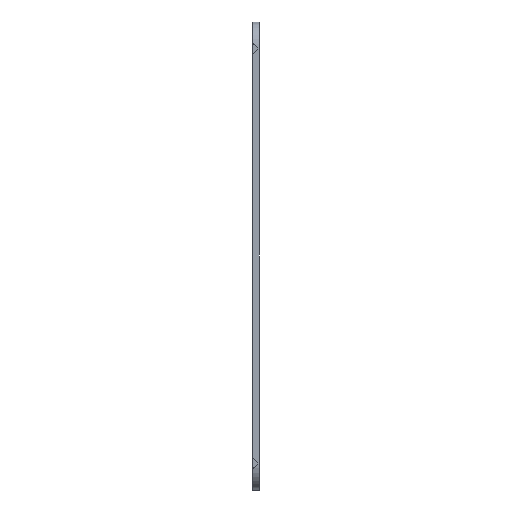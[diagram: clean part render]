
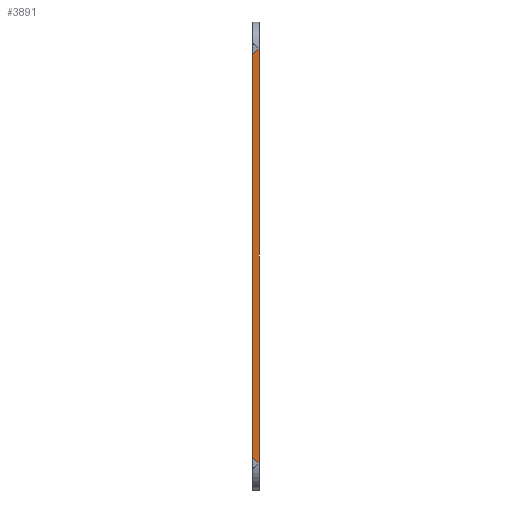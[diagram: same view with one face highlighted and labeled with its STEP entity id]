
A CAD part, left-side view. The second image highlights one B-rep face of the part: STEP entity #3891.
In plain terms, the highlighted planar face has unit normal (-1, 0, 0).
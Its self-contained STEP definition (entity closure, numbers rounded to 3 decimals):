
#225=FACE_OUTER_BOUND('',#427,.T.);
#427=EDGE_LOOP('',(#3343,#3344,#3345,#3346,#3347,#3348));
#506=LINE('',#5246,#1030);
#564=LINE('',#5388,#1088);
#929=LINE('',#6145,#1453);
#933=LINE('',#6153,#1457);
#934=LINE('',#6154,#1458);
#935=LINE('',#6155,#1459);
#1030=VECTOR('',#4242,10.);
#1088=VECTOR('',#4334,10.);
#1453=VECTOR('',#5005,10.);
#1457=VECTOR('',#5011,10.);
#1458=VECTOR('',#5012,10.);
#1459=VECTOR('',#5013,10.);
#1554=VERTEX_POINT('',#5243);
#1555=VERTEX_POINT('',#5245);
#1621=VERTEX_POINT('',#5385);
#1622=VERTEX_POINT('',#5387);
#1861=VERTEX_POINT('',#6144);
#1864=VERTEX_POINT('',#6152);
#1928=EDGE_CURVE('',#1554,#1555,#506,.T.);
#2000=EDGE_CURVE('',#1621,#1622,#564,.T.);
#2381=EDGE_CURVE('',#1622,#1861,#929,.T.);
#2385=EDGE_CURVE('',#1864,#1621,#933,.T.);
#2386=EDGE_CURVE('',#1555,#1864,#934,.T.);
#2387=EDGE_CURVE('',#1554,#1861,#935,.T.);
#3343=ORIENTED_EDGE('',*,*,#2381,.F.);
#3344=ORIENTED_EDGE('',*,*,#2000,.F.);
#3345=ORIENTED_EDGE('',*,*,#2385,.F.);
#3346=ORIENTED_EDGE('',*,*,#2386,.F.);
#3347=ORIENTED_EDGE('',*,*,#1928,.F.);
#3348=ORIENTED_EDGE('',*,*,#2387,.T.);
#3699=PLANE('',#4133);
#3891=ADVANCED_FACE('',(#225),#3699,.T.);
#4133=AXIS2_PLACEMENT_3D('',#6151,#5009,#5010);
#4242=DIRECTION('',(0.,0.,-1.));
#4334=DIRECTION('',(0.,0.,1.));
#5005=DIRECTION('',(0.,-0.707,0.707));
#5009=DIRECTION('center_axis',(-1.,0.,0.));
#5010=DIRECTION('ref_axis',(0.,0.,1.));
#5011=DIRECTION('',(0.,0.707,0.707));
#5012=DIRECTION('',(0.,1.,0.));
#5013=DIRECTION('',(0.,1.,0.));
#5243=CARTESIAN_POINT('',(-43.,0.,23.8));
#5245=CARTESIAN_POINT('',(-43.,0.,-23.8));
#5246=CARTESIAN_POINT('',(-43.,0.,27.));
#5385=CARTESIAN_POINT('',(-43.,0.8,-23.2));
#5387=CARTESIAN_POINT('',(-43.,0.8,23.2));
#5388=CARTESIAN_POINT('',(-43.,0.8,27.));
#6144=CARTESIAN_POINT('',(-43.,0.2,23.8));
#6145=CARTESIAN_POINT('',(-43.,12.2,11.8));
#6151=CARTESIAN_POINT('Origin',(-43.,0.,-23.8));
#6152=CARTESIAN_POINT('',(-43.,0.2,-23.8));
#6153=CARTESIAN_POINT('',(-43.,0.3,-23.7));
#6154=CARTESIAN_POINT('',(-43.,0.,-23.8));
#6155=CARTESIAN_POINT('',(-43.,0.,23.8));
